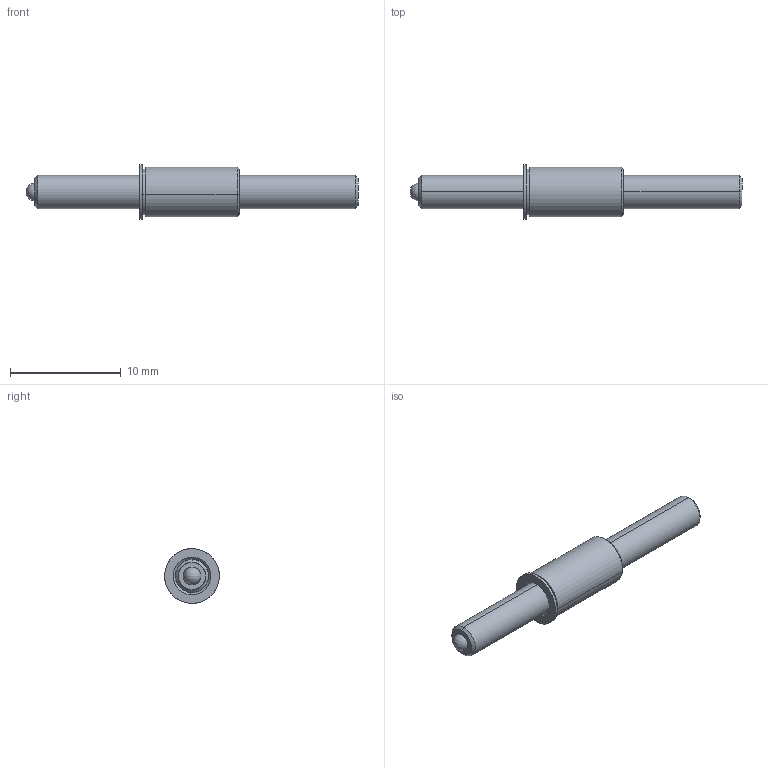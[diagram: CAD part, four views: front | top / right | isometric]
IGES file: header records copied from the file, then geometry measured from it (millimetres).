
Start section: SolidWorks IGES file using analytic representation for surfaces
Global section: file name: C:\Users\workpc\Desktop\KMA Solidworks\TSBM3-25-30_9.IGS; native system: SolidWorks 2013; preprocessor: SolidWorks 2013; author: workpc; date: 130314.171039; units: inch
Bounding box: 29.99 x 4.95 x 4.95 mm (x, y, z)
Surface area: 457.8 mm2 (no closed solid volume)
Topology: 0 solids, 0 shells, 32 faces, 446 edges, 442 vertices
Faces by surface type: revolution 20, bspline 12
